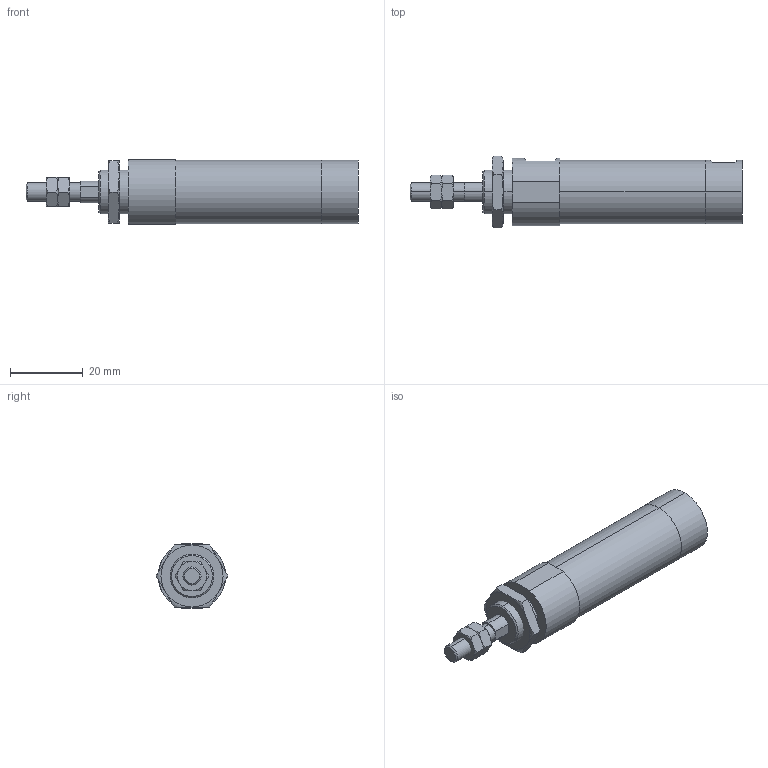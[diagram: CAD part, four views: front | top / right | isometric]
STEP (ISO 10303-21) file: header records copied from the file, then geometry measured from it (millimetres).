
FILE_DESCRIPTION (( 'STEP AP203' ), '1' );
FILE_NAME ('ZGU2-16-15-N.STEP', '2016-03-31T00:57:46', ( '' ), ( '' ), 'SwSTEP 2.0', 'SolidWorks 2014', '' );
FILE_SCHEMA (( 'CONFIG_CONTROL_DESIGN' ));
Length unit declared in the file: millimetre
Products named in the file (4): ZGU2-16-15; ZGU2-16-15-N
Assembly tree (4 placements, depth 2):
  ZGU2-16-15-N
    ZGU2-16-15
    (unnamed)  x2
    (unnamed)
Bounding box: 91 x 19.63 x 17.6 mm (x, y, z)
Volume: 17158.9 mm3; surface area: 5866.1 mm2
Topology: 4 solids, 4 shells, 108 faces, 235 edges, 140 vertices
Faces by surface type: plane 41, torus 36, cylinder 23, cone 8
Entity records: 3055 total; most frequent: CARTESIAN_POINT 800, DIRECTION 387, ORIENTED_EDGE 366, EDGE_CURVE 183, AXIS2_PLACEMENT_3D 163, VERTEX_POINT 112, EDGE_LOOP 99, ADVANCED_FACE 86
